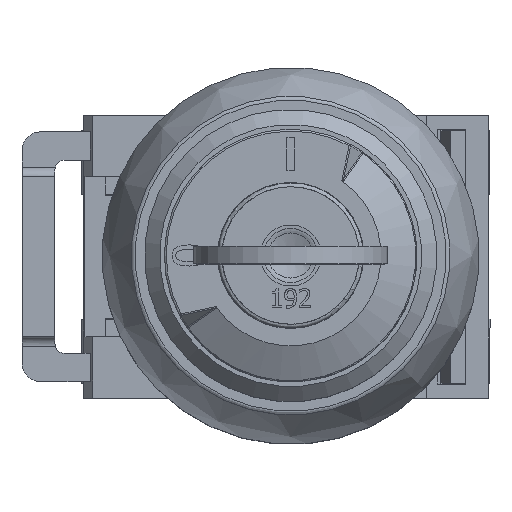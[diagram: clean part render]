
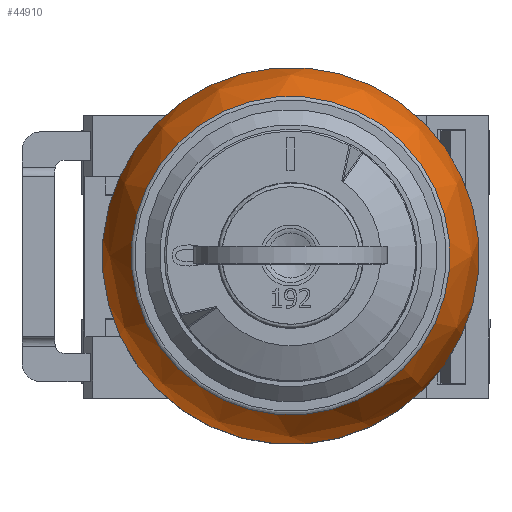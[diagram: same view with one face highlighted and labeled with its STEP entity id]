
A CAD part, top view. The second image highlights one B-rep face of the part: STEP entity #44910.
In plain terms, the highlighted free-form (B-spline) face has degree [2, 2] with [3, 9] control points.
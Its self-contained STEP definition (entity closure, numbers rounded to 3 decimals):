
#44846=CARTESIAN_POINT('',(14.142,-14.142,53.05));
#44847=VERTEX_POINT('',#44846);
#44848=CARTESIAN_POINT('',(0.,0.,53.05));
#44849=DIRECTION('',(0.,0.,1.0));
#44850=DIRECTION('',(0.707,-0.707,0.));
#44851=AXIS2_PLACEMENT_3D('',#44848,#44849,#44850);
#44852=CIRCLE('',#44851,20.0);
#44853=EDGE_CURVE('',#44847,#44847,#44852,.T.);
#44861=CARTESIAN_POINT('',(-14.142,-14.142,53.05));
#44862=CARTESIAN_POINT('',(-14.142,-14.142,58.216));
#44863=CARTESIAN_POINT('',(-11.952,-11.952,62.35));
#44864=CARTESIAN_POINT('',(-28.284,0.,53.05));
#44865=CARTESIAN_POINT('',(-28.284,0.,58.216));
#44866=CARTESIAN_POINT('',(-23.904,0.,62.35));
#44867=CARTESIAN_POINT('',(-14.142,14.142,53.05));
#44868=CARTESIAN_POINT('',(-14.142,14.142,58.216));
#44869=CARTESIAN_POINT('',(-11.952,11.952,62.35));
#44870=CARTESIAN_POINT('',(0.,28.284,53.05));
#44871=CARTESIAN_POINT('',(0.,28.284,58.216));
#44872=CARTESIAN_POINT('',(0.,23.904,62.35));
#44873=CARTESIAN_POINT('',(14.142,14.142,53.05));
#44874=CARTESIAN_POINT('',(14.142,14.142,58.216));
#44875=CARTESIAN_POINT('',(11.952,11.952,62.35));
#44876=CARTESIAN_POINT('',(28.284,0.,53.05));
#44877=CARTESIAN_POINT('',(28.284,0.,58.216));
#44878=CARTESIAN_POINT('',(23.904,0.,62.35));
#44879=CARTESIAN_POINT('',(14.142,-14.142,53.05));
#44880=CARTESIAN_POINT('',(14.142,-14.142,58.216));
#44881=CARTESIAN_POINT('',(11.952,-11.952,62.35));
#44882=CARTESIAN_POINT('',(0.,-28.284,53.05));
#44883=CARTESIAN_POINT('',(0.,-28.284,58.216));
#44884=CARTESIAN_POINT('',(0.,-23.904,62.35));
#44885=CARTESIAN_POINT('',(-14.142,-14.142,53.05));
#44886=CARTESIAN_POINT('',(-14.142,-14.142,58.216));
#44887=CARTESIAN_POINT('',(-11.952,-11.952,62.35));
#44895=(BOUNDED_SURFACE()B_SPLINE_SURFACE(2,2,((#44861,#44864,#44867,#44870,#44873,#44876,#44879,#44882,#44885),(#44862,#44865,#44868,#44871,#44874,#44877,#44880,#44883,#44886),(#44863,#44866,#44869,#44872,#44875,#44878,#44881,#44884,#44887)),.UNSPECIFIED.,.F.,.T.,.U.)B_SPLINE_SURFACE_WITH_KNOTS((3,3),(3,2,2,2,3),(0.,0.643),(0.0,1.571,3.142,4.712,6.283),.UNSPECIFIED.)GEOMETRIC_REPRESENTATION_ITEM()RATIONAL_B_SPLINE_SURFACE(((1.0,0.707,1.0,0.707,1.0,0.707,1.0,0.707,1.0),(0.949,0.671,0.949,0.671,0.949,0.671,0.949,0.671,0.949),(1.0,0.707,1.0,0.707,1.0,0.707,1.0,0.707,1.0)))REPRESENTATION_ITEM('')SURFACE());
#44896=CARTESIAN_POINT('',(11.952,-11.952,62.35));
#44897=VERTEX_POINT('',#44896);
#44898=CARTESIAN_POINT('',(0.,0.,62.35));
#44899=DIRECTION('',(0.,0.,1.0));
#44900=DIRECTION('',(0.707,-0.707,0.));
#44901=AXIS2_PLACEMENT_3D('',#44898,#44899,#44900);
#44902=CIRCLE('',#44901,16.903);
#44903=EDGE_CURVE('',#44897,#44897,#44902,.T.);
#44904=ORIENTED_EDGE('',*,*,#44903,.F.);
#44905=EDGE_LOOP('',(#44904));
#44906=FACE_OUTER_BOUND('',#44905,.T.);
#44907=ORIENTED_EDGE('',*,*,#44853,.T.);
#44908=EDGE_LOOP('',(#44907));
#44909=FACE_BOUND('',#44908,.T.);
#44910=ADVANCED_FACE('',(#44906,#44909),#44895,.T.);
